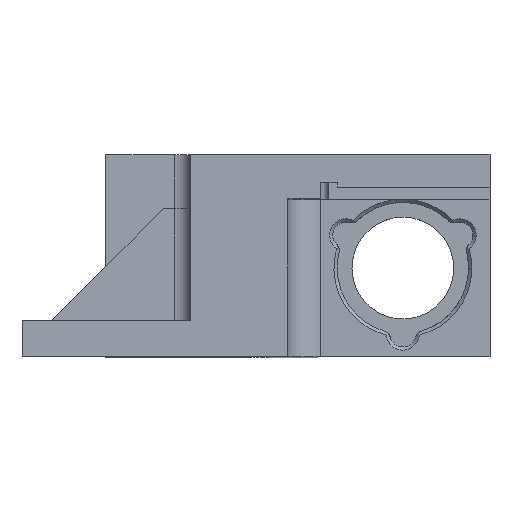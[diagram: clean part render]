
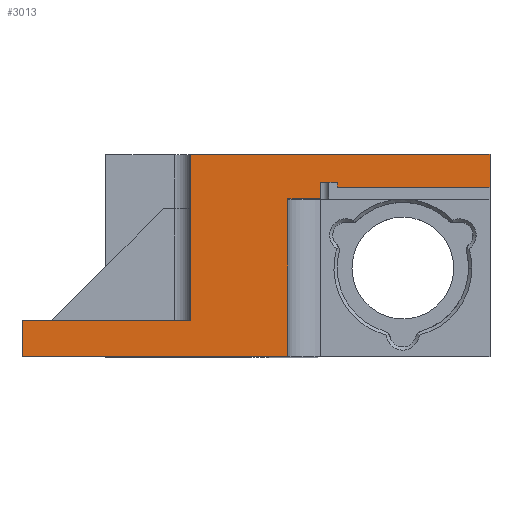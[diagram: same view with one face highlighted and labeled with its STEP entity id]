
A CAD part, top view. The second image highlights one B-rep face of the part: STEP entity #3013.
In plain terms, the highlighted planar face has unit normal (0, 0, 1).
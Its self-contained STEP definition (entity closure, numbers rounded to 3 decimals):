
#84 = CARTESIAN_POINT ( 'NONE',  ( -5., 2.2, 5.5 ) ) ;
#154 = CARTESIAN_POINT ( 'NONE',  ( 13.193, 2.2, 5.5 ) ) ;
#171 = EDGE_CURVE ( 'NONE', #5230, #2203, #1593, .T. ) ;
#304 = CARTESIAN_POINT ( 'NONE',  ( 14.193, 10.3, 5.5 ) ) ;
#355 = LINE ( 'NONE', #3984, #6381 ) ;
#528 = DIRECTION ( 'NONE',  ( 0., -1., 0. ) ) ;
#621 = VECTOR ( 'NONE', #6602, 1000. ) ;
#722 = CARTESIAN_POINT ( 'NONE',  ( 23.5, 0., 5.5 ) ) ;
#732 = LINE ( 'NONE', #6098, #2680 ) ;
#737 = DIRECTION ( 'NONE',  ( -1., 0., 0. ) ) ;
#827 = VERTEX_POINT ( 'NONE', #3571 ) ;
#903 = CARTESIAN_POINT ( 'NONE',  ( 11.193, 0., 5.5 ) ) ;
#931 = DIRECTION ( 'NONE',  ( -1., 0., 0. ) ) ;
#966 = CARTESIAN_POINT ( 'NONE',  ( 13.193, 10.6, 5.5 ) ) ;
#1015 = DIRECTION ( 'NONE',  ( 1., 0., 0. ) ) ;
#1094 = CARTESIAN_POINT ( 'NONE',  ( 5.28, 12.3, 5.5 ) ) ;
#1130 = LINE ( 'NONE', #4806, #2851 ) ;
#1149 = VECTOR ( 'NONE', #3088, 1000. ) ;
#1158 = ORIENTED_EDGE ( 'NONE', *, *, #1816, .F. ) ;
#1164 = CARTESIAN_POINT ( 'NONE',  ( 14.193, 10.6, 5.5 ) ) ;
#1200 = DIRECTION ( 'NONE',  ( 0., -1., 0. ) ) ;
#1214 = LINE ( 'NONE', #6494, #5831 ) ;
#1251 = VERTEX_POINT ( 'NONE', #966 ) ;
#1345 = PLANE ( 'NONE',  #3360 ) ;
#1593 = LINE ( 'NONE', #4298, #4211 ) ;
#1605 = VECTOR ( 'NONE', #1015, 1000. ) ;
#1812 = CARTESIAN_POINT ( 'NONE',  ( 13.193, 10.6, 5.5 ) ) ;
#1816 = EDGE_CURVE ( 'NONE', #3989, #827, #4248, .T. ) ;
#1888 = VERTEX_POINT ( 'NONE', #2715 ) ;
#2033 = CARTESIAN_POINT ( 'NONE',  ( 13.193, 9.6, 5.5 ) ) ;
#2041 = ORIENTED_EDGE ( 'NONE', *, *, #2324, .F. ) ;
#2162 = CARTESIAN_POINT ( 'NONE',  ( 14.193, 10.6, 5.5 ) ) ;
#2203 = VERTEX_POINT ( 'NONE', #4338 ) ;
#2270 = LINE ( 'NONE', #1812, #3602 ) ;
#2324 = EDGE_CURVE ( 'NONE', #2203, #2538, #732, .T. ) ;
#2437 = CARTESIAN_POINT ( 'NONE',  ( -5., 0., 5.5 ) ) ;
#2499 = CARTESIAN_POINT ( 'NONE',  ( -5., 0., 5.5 ) ) ;
#2538 = VERTEX_POINT ( 'NONE', #903 ) ;
#2605 = LINE ( 'NONE', #2162, #2709 ) ;
#2680 = VECTOR ( 'NONE', #2846, 1000. ) ;
#2709 = VECTOR ( 'NONE', #528, 1000. ) ;
#2715 = CARTESIAN_POINT ( 'NONE',  ( 5.28, 2.2, 5.5 ) ) ;
#2807 = EDGE_LOOP ( 'NONE', ( #5911, #6764, #1158, #3560, #4394, #3432, #3697, #2041, #4597, #4664, #2951, #6666 ) ) ;
#2846 = DIRECTION ( 'NONE',  ( 0., -1., 0. ) ) ;
#2851 = VECTOR ( 'NONE', #1200, 1000. ) ;
#2951 = ORIENTED_EDGE ( 'NONE', *, *, #4192, .F. ) ;
#3013 = ADVANCED_FACE ( 'NONE', ( #6158 ), #1345, .F. ) ;
#3088 = DIRECTION ( 'NONE',  ( 1., 0., 0. ) ) ;
#3180 = DIRECTION ( 'NONE',  ( 1., 0., 0. ) ) ;
#3251 = EDGE_CURVE ( 'NONE', #4343, #2538, #3499, .T. ) ;
#3343 = VERTEX_POINT ( 'NONE', #4087 ) ;
#3360 = AXIS2_PLACEMENT_3D ( 'NONE', #3528, #5642, #931 ) ;
#3432 = ORIENTED_EDGE ( 'NONE', *, *, #4996, .T. ) ;
#3499 = LINE ( 'NONE', #2499, #1149 ) ;
#3528 = CARTESIAN_POINT ( 'NONE',  ( -5., 2.2, 5.5 ) ) ;
#3560 = ORIENTED_EDGE ( 'NONE', *, *, #5359, .T. ) ;
#3561 = VERTEX_POINT ( 'NONE', #304 ) ;
#3571 = CARTESIAN_POINT ( 'NONE',  ( 23.5, 12.3, 5.5 ) ) ;
#3602 = VECTOR ( 'NONE', #737, 1000. ) ;
#3697 = ORIENTED_EDGE ( 'NONE', *, *, #3251, .T. ) ;
#3879 = VERTEX_POINT ( 'NONE', #4634 ) ;
#3984 = CARTESIAN_POINT ( 'NONE',  ( -5., 10.3, 5.5 ) ) ;
#3989 = VERTEX_POINT ( 'NONE', #1094 ) ;
#4069 = VECTOR ( 'NONE', #3180, 1000. ) ;
#4087 = CARTESIAN_POINT ( 'NONE',  ( 23.5, 10.3, 5.5 ) ) ;
#4132 = EDGE_CURVE ( 'NONE', #5230, #1251, #6478, .T. ) ;
#4192 = EDGE_CURVE ( 'NONE', #6064, #1251, #2270, .T. ) ;
#4211 = VECTOR ( 'NONE', #6523, 1000. ) ;
#4248 = LINE ( 'NONE', #4772, #4069 ) ;
#4298 = CARTESIAN_POINT ( 'NONE',  ( 11.193, 9.6, 5.5 ) ) ;
#4338 = CARTESIAN_POINT ( 'NONE',  ( 11.193, 9.6, 5.5 ) ) ;
#4343 = VERTEX_POINT ( 'NONE', #2437 ) ;
#4394 = ORIENTED_EDGE ( 'NONE', *, *, #4418, .F. ) ;
#4418 = EDGE_CURVE ( 'NONE', #3879, #1888, #5277, .T. ) ;
#4426 = EDGE_CURVE ( 'NONE', #6064, #3561, #2605, .T. ) ;
#4597 = ORIENTED_EDGE ( 'NONE', *, *, #171, .F. ) ;
#4634 = CARTESIAN_POINT ( 'NONE',  ( -5., 2.2, 5.5 ) ) ;
#4664 = ORIENTED_EDGE ( 'NONE', *, *, #4132, .T. ) ;
#4748 = EDGE_CURVE ( 'NONE', #3343, #3561, #355, .T. ) ;
#4772 = CARTESIAN_POINT ( 'NONE',  ( 5.28, 12.3, 5.5 ) ) ;
#4806 = CARTESIAN_POINT ( 'NONE',  ( 5.28, 12.3, 5.5 ) ) ;
#4996 = EDGE_CURVE ( 'NONE', #3879, #4343, #1214, .T. ) ;
#5230 = VERTEX_POINT ( 'NONE', #2033 ) ;
#5277 = LINE ( 'NONE', #84, #1605 ) ;
#5359 = EDGE_CURVE ( 'NONE', #3989, #1888, #1130, .T. ) ;
#5419 = DIRECTION ( 'NONE',  ( 0., 1., 0. ) ) ;
#5471 = LINE ( 'NONE', #722, #621 ) ;
#5642 = DIRECTION ( 'NONE',  ( 0., 0., -1. ) ) ;
#5831 = VECTOR ( 'NONE', #5983, 1000. ) ;
#5911 = ORIENTED_EDGE ( 'NONE', *, *, #4748, .F. ) ;
#5983 = DIRECTION ( 'NONE',  ( 0., -1., 0. ) ) ;
#6064 = VERTEX_POINT ( 'NONE', #1164 ) ;
#6098 = CARTESIAN_POINT ( 'NONE',  ( 11.193, 12.3, 5.5 ) ) ;
#6158 = FACE_OUTER_BOUND ( 'NONE', #2807, .T. ) ;
#6198 = DIRECTION ( 'NONE',  ( -1., 0., 0. ) ) ;
#6381 = VECTOR ( 'NONE', #6198, 1000. ) ;
#6419 = EDGE_CURVE ( 'NONE', #3343, #827, #5471, .T. ) ;
#6478 = LINE ( 'NONE', #154, #6685 ) ;
#6494 = CARTESIAN_POINT ( 'NONE',  ( -5., 2.2, 5.5 ) ) ;
#6523 = DIRECTION ( 'NONE',  ( -1., 0., 0. ) ) ;
#6602 = DIRECTION ( 'NONE',  ( 0., 1., 0. ) ) ;
#6666 = ORIENTED_EDGE ( 'NONE', *, *, #4426, .T. ) ;
#6685 = VECTOR ( 'NONE', #5419, 1000. ) ;
#6764 = ORIENTED_EDGE ( 'NONE', *, *, #6419, .T. ) ;
